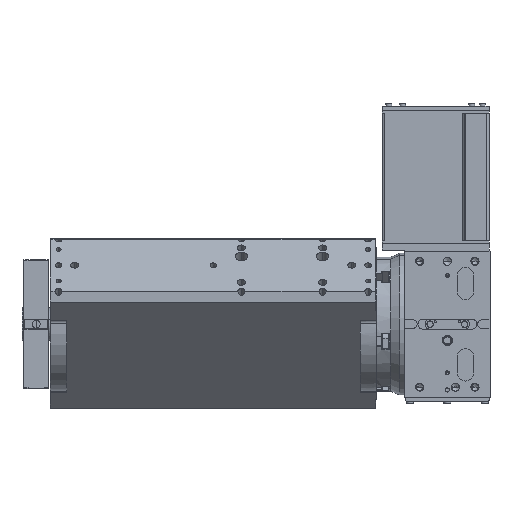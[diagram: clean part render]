
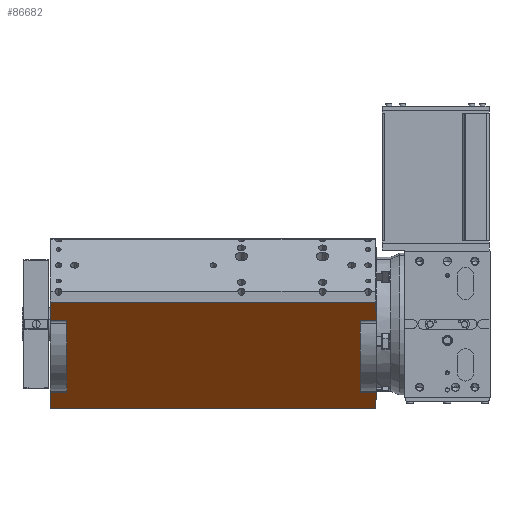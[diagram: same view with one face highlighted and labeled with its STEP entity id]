
A CAD part, front view. The second image highlights one B-rep face of the part: STEP entity #86682.
In plain terms, the highlighted planar face has unit normal (0, -0.707, -0.707) as drawn and (0, -0.5, -0.866) by its records, which use the part's own axes.
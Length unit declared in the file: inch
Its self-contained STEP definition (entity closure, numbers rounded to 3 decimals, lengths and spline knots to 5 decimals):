
#453 = VERTEX_POINT ( 'NONE', #50564 ) ;
#805 = VERTEX_POINT ( 'NONE', #11338 ) ;
#931 = LINE ( 'NONE', #116500, #113806 ) ;
#1506 = CARTESIAN_POINT ( 'NONE',  ( -4.375, -4.11307, -0.86935 ) ) ;
#1565 = LINE ( 'NONE', #77629, #4813 ) ;
#3761 = LINE ( 'NONE', #119912, #66380 ) ;
#3811 = EDGE_CURVE ( 'NONE', #117602, #20770, #3761, .T. ) ;
#3943 = VECTOR ( 'NONE', #112265, 39.37008 ) ;
#4222 = ORIENTED_EDGE ( 'NONE', *, *, #100081, .T. ) ;
#4278 = LINE ( 'NONE', #111656, #81413 ) ;
#4603 = DIRECTION ( 'NONE',  ( 0., 0.866, -0.5 ) ) ;
#4813 = VECTOR ( 'NONE', #69490, 39.37008 ) ;
#5592 = VERTEX_POINT ( 'NONE', #34359 ) ;
#7716 = VECTOR ( 'NONE', #13692, 39.37008 ) ;
#8008 = ORIENTED_EDGE ( 'NONE', *, *, #104860, .F. ) ;
#8533 = VERTEX_POINT ( 'NONE', #1506 ) ;
#11332 = VECTOR ( 'NONE', #43396, 39.37008 ) ;
#11338 = CARTESIAN_POINT ( 'NONE',  ( -4.375, 1.86777, -4.32388 ) ) ;
#12419 = LINE ( 'NONE', #44896, #32274 ) ;
#13692 = DIRECTION ( 'NONE',  ( 0., 0.866, -0.5 ) ) ;
#14502 = CARTESIAN_POINT ( 'NONE',  ( -24.425, 2.49557, -4.6865 ) ) ;
#18840 = CARTESIAN_POINT ( 'NONE',  ( -4.395, 1.86777, -4.32388 ) ) ;
#18879 = ORIENTED_EDGE ( 'NONE', *, *, #52535, .F. ) ;
#19386 = CARTESIAN_POINT ( 'NONE',  ( -4.395, -5.9083, 0.16758 ) ) ;
#19956 = AXIS2_PLACEMENT_3D ( 'NONE', #121686, #35668, #26231 ) ;
#20770 = VERTEX_POINT ( 'NONE', #64204 ) ;
#21710 = ORIENTED_EDGE ( 'NONE', *, *, #113948, .F. ) ;
#23974 = ORIENTED_EDGE ( 'NONE', *, *, #55606, .T. ) ;
#26231 = DIRECTION ( 'NONE',  ( 0., 0.866, -0.5 ) ) ;
#26763 = CARTESIAN_POINT ( 'NONE',  ( -5.375, 1.30216, -3.99719 ) ) ;
#27432 = DIRECTION ( 'NONE',  ( 0., 0.866, -0.5 ) ) ;
#28579 = EDGE_CURVE ( 'NONE', #122357, #63959, #72148, .T. ) ;
#28906 = ORIENTED_EDGE ( 'NONE', *, *, #117283, .F. ) ;
#29896 = VERTEX_POINT ( 'NONE', #31668 ) ;
#31668 = CARTESIAN_POINT ( 'NONE',  ( -4.395, -4.86918, -0.43262 ) ) ;
#32274 = VECTOR ( 'NONE', #99147, 39.37008 ) ;
#32431 = DIRECTION ( 'NONE',  ( -1., 0., 0. ) ) ;
#33963 = VERTEX_POINT ( 'NONE', #100326 ) ;
#34359 = CARTESIAN_POINT ( 'NONE',  ( -23.425, -4.11307, -0.86935 ) ) ;
#34545 = VECTOR ( 'NONE', #37867, 39.37008 ) ;
#35463 = CARTESIAN_POINT ( 'NONE',  ( -24.425, -5.49698, -0.07 ) ) ;
#35668 = DIRECTION ( 'NONE',  ( 0., -0.5, -0.866 ) ) ;
#35725 = EDGE_CURVE ( 'NONE', #107492, #5592, #77477, .T. ) ;
#36864 = LINE ( 'NONE', #75799, #110781 ) ;
#36888 = FACE_OUTER_BOUND ( 'NONE', #39121, .T. ) ;
#37867 = DIRECTION ( 'NONE',  ( 1., 0., 0. ) ) ;
#37993 = EDGE_CURVE ( 'NONE', #46807, #29896, #105400, .T. ) ;
#39121 = EDGE_LOOP ( 'NONE', ( #93794, #23974, #21710, #46952, #46801, #64763, #64491, #117569, #57580, #110102, #4222, #8008, #28906, #110723, #107627, #18879 ) ) ;
#43396 = DIRECTION ( 'NONE',  ( 1., 0., 0. ) ) ;
#44896 = CARTESIAN_POINT ( 'NONE',  ( -4.395, -5.49698, -0.07 ) ) ;
#45190 = EDGE_CURVE ( 'NONE', #46807, #74809, #12419, .T. ) ;
#46801 = ORIENTED_EDGE ( 'NONE', *, *, #37993, .F. ) ;
#46807 = VERTEX_POINT ( 'NONE', #66395 ) ;
#46952 = ORIENTED_EDGE ( 'NONE', *, *, #90499, .F. ) ;
#48027 = CARTESIAN_POINT ( 'NONE',  ( -23.425, 1.30216, -3.99719 ) ) ;
#49123 = VECTOR ( 'NONE', #60663, 39.37008 ) ;
#50564 = CARTESIAN_POINT ( 'NONE',  ( -4.395, 1.86777, -4.32388 ) ) ;
#51192 = EDGE_CURVE ( 'NONE', #119349, #805, #1565, .T. ) ;
#51832 = CARTESIAN_POINT ( 'NONE',  ( -4.395, 2.49557, -4.6865 ) ) ;
#52119 = DIRECTION ( 'NONE',  ( 1., 0., 0. ) ) ;
#52535 = EDGE_CURVE ( 'NONE', #63959, #119349, #117777, .T. ) ;
#55606 = EDGE_CURVE ( 'NONE', #122357, #8533, #4278, .T. ) ;
#57580 = ORIENTED_EDGE ( 'NONE', *, *, #60999, .T. ) ;
#59916 = VERTEX_POINT ( 'NONE', #14502 ) ;
#60037 = CARTESIAN_POINT ( 'NONE',  ( -5.375, 1.30216, -3.99719 ) ) ;
#60663 = DIRECTION ( 'NONE',  ( 1., 0., 0. ) ) ;
#60853 = CARTESIAN_POINT ( 'NONE',  ( -5.375, 1.30216, -3.99719 ) ) ;
#60999 = EDGE_CURVE ( 'NONE', #5592, #20770, #64641, .T. ) ;
#62758 = DIRECTION ( 'NONE',  ( 1., 0., 0. ) ) ;
#63959 = VERTEX_POINT ( 'NONE', #26763 ) ;
#64204 = CARTESIAN_POINT ( 'NONE',  ( -23.425, 1.30216, -3.99719 ) ) ;
#64491 = ORIENTED_EDGE ( 'NONE', *, *, #81505, .T. ) ;
#64641 = LINE ( 'NONE', #48027, #3943 ) ;
#64763 = ORIENTED_EDGE ( 'NONE', *, *, #45190, .T. ) ;
#65578 = CARTESIAN_POINT ( 'NONE',  ( -5.375, -4.86918, -0.43262 ) ) ;
#65915 = CARTESIAN_POINT ( 'NONE',  ( -4.375, 1.30216, -3.99719 ) ) ;
#66380 = VECTOR ( 'NONE', #52119, 39.37008 ) ;
#66395 = CARTESIAN_POINT ( 'NONE',  ( -4.395, -5.49698, -0.07 ) ) ;
#68044 = CARTESIAN_POINT ( 'NONE',  ( -24.425, -4.11307, -0.86935 ) ) ;
#69490 = DIRECTION ( 'NONE',  ( 0., 0.866, -0.5 ) ) ;
#70500 = LINE ( 'NONE', #99382, #11332 ) ;
#72148 = LINE ( 'NONE', #60853, #7716 ) ;
#72625 = CARTESIAN_POINT ( 'NONE',  ( -5.375, -4.11307, -0.86935 ) ) ;
#74809 = VERTEX_POINT ( 'NONE', #35463 ) ;
#75241 = VECTOR ( 'NONE', #96051, 39.37008 ) ;
#75799 = CARTESIAN_POINT ( 'NONE',  ( -24.425, -5.9083, 0.16758 ) ) ;
#77477 = LINE ( 'NONE', #68044, #34545 ) ;
#77484 = LINE ( 'NONE', #65578, #90697 ) ;
#77629 = CARTESIAN_POINT ( 'NONE',  ( -4.375, 1.86777, -4.32388 ) ) ;
#81413 = VECTOR ( 'NONE', #62758, 39.37008 ) ;
#81505 = EDGE_CURVE ( 'NONE', #74809, #107492, #36864, .T. ) ;
#86682 = ADVANCED_FACE ( 'NONE', ( #36888 ), #92208, .T. ) ;
#89033 = VECTOR ( 'NONE', #32431, 39.37008 ) ;
#90499 = EDGE_CURVE ( 'NONE', #29896, #33963, #77484, .T. ) ;
#90697 = VECTOR ( 'NONE', #115696, 39.37008 ) ;
#92208 = PLANE ( 'NONE',  #19956 ) ;
#93794 = ORIENTED_EDGE ( 'NONE', *, *, #28579, .F. ) ;
#95540 = DIRECTION ( 'NONE',  ( 0., 0.866, -0.5 ) ) ;
#95994 = CARTESIAN_POINT ( 'NONE',  ( -24.425, 1.30216, -3.99719 ) ) ;
#96051 = DIRECTION ( 'NONE',  ( 0., 0.866, -0.5 ) ) ;
#96439 = VECTOR ( 'NONE', #4603, 39.37008 ) ;
#97671 = CARTESIAN_POINT ( 'NONE',  ( -24.425, -4.11307, -0.86935 ) ) ;
#98317 = EDGE_CURVE ( 'NONE', #453, #805, #70500, .T. ) ;
#99147 = DIRECTION ( 'NONE',  ( -1., 0., 0. ) ) ;
#99382 = CARTESIAN_POINT ( 'NONE',  ( -5.375, 1.86777, -4.32388 ) ) ;
#100081 = EDGE_CURVE ( 'NONE', #117602, #59916, #931, .T. ) ;
#100326 = CARTESIAN_POINT ( 'NONE',  ( -4.375, -4.86918, -0.43262 ) ) ;
#104853 = LINE ( 'NONE', #18840, #121410 ) ;
#104860 = EDGE_CURVE ( 'NONE', #121014, #59916, #107716, .T. ) ;
#105400 = LINE ( 'NONE', #19386, #75241 ) ;
#105780 = DIRECTION ( 'NONE',  ( 0., 0.866, -0.5 ) ) ;
#107492 = VERTEX_POINT ( 'NONE', #97671 ) ;
#107627 = ORIENTED_EDGE ( 'NONE', *, *, #51192, .F. ) ;
#107716 = LINE ( 'NONE', #51832, #89033 ) ;
#110102 = ORIENTED_EDGE ( 'NONE', *, *, #3811, .F. ) ;
#110723 = ORIENTED_EDGE ( 'NONE', *, *, #98317, .T. ) ;
#110781 = VECTOR ( 'NONE', #27432, 39.37008 ) ;
#111656 = CARTESIAN_POINT ( 'NONE',  ( -5.375, -4.11307, -0.86935 ) ) ;
#112265 = DIRECTION ( 'NONE',  ( 0., 0.866, -0.5 ) ) ;
#113806 = VECTOR ( 'NONE', #105780, 39.37008 ) ;
#113948 = EDGE_CURVE ( 'NONE', #33963, #8533, #119547, .T. ) ;
#115358 = CARTESIAN_POINT ( 'NONE',  ( -4.375, -4.11307, -0.86935 ) ) ;
#115696 = DIRECTION ( 'NONE',  ( 1., 0., 0. ) ) ;
#116500 = CARTESIAN_POINT ( 'NONE',  ( -24.425, 1.86777, -4.32388 ) ) ;
#117283 = EDGE_CURVE ( 'NONE', #453, #121014, #104853, .T. ) ;
#117569 = ORIENTED_EDGE ( 'NONE', *, *, #35725, .T. ) ;
#117602 = VERTEX_POINT ( 'NONE', #95994 ) ;
#117777 = LINE ( 'NONE', #60037, #49123 ) ;
#118681 = CARTESIAN_POINT ( 'NONE',  ( -4.395, 2.49557, -4.6865 ) ) ;
#119349 = VERTEX_POINT ( 'NONE', #65915 ) ;
#119547 = LINE ( 'NONE', #115358, #96439 ) ;
#119912 = CARTESIAN_POINT ( 'NONE',  ( -24.425, 1.30216, -3.99719 ) ) ;
#121014 = VERTEX_POINT ( 'NONE', #118681 ) ;
#121410 = VECTOR ( 'NONE', #95540, 39.37008 ) ;
#121686 = CARTESIAN_POINT ( 'NONE',  ( -24.425, -5.9083, 0.16758 ) ) ;
#122357 = VERTEX_POINT ( 'NONE', #72625 ) ;
